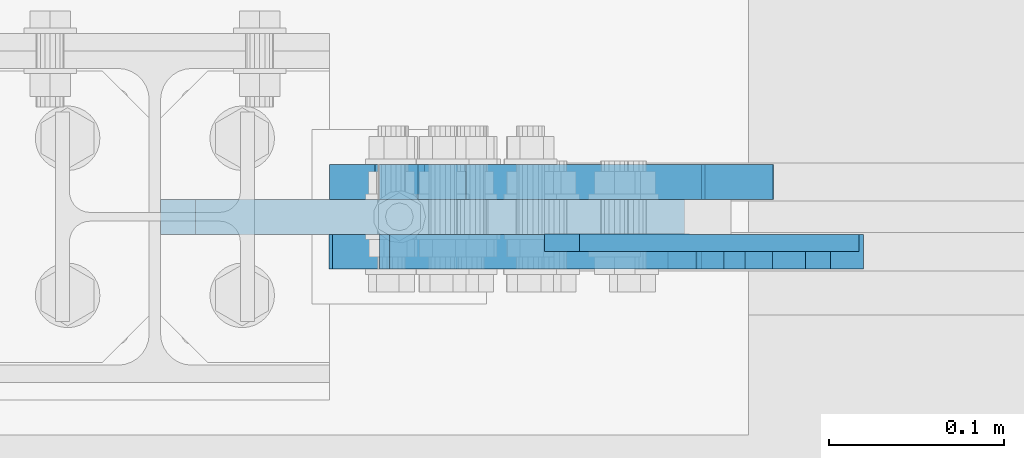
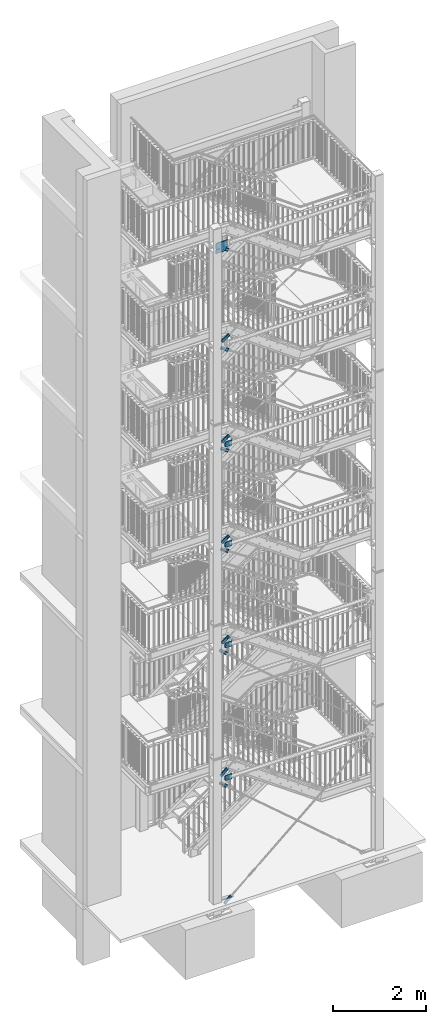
# One storey, part 154 of 831: 17 plates, 46 openings.
"""IFC2X3 building model written with IfcOpenShell, lengths in millimetres."""

from ifc_helpers import new_model, entity, si_unit, converted_unit, point, frame, frame_2d, origin, origin_with_axes, place, context, project, spatial, polyline, circle_curve, line_curve, trimmed, segment, composite_curve, circle, outline, extrude, material, layer, layer_set, element, save


model = new_model("IFC2X3")

# Units and contexts
model_context = context("Model", 3, precision=1e-09, world=origin_with_axes())
ifc_project = project(units=[si_unit("LENGTHUNIT", "METRE", prefix="MILLI"), si_unit("AREAUNIT", "SQUARE_METRE"), si_unit("VOLUMEUNIT", "CUBIC_METRE"), converted_unit("PLANEANGLEUNIT", "DEGREE", entity("IfcPlaneAngleMeasure", 0.01745329), si_unit("PLANEANGLEUNIT", "RADIAN"), dimensions=[0, 0, 0, 0, 0, 0, 0])], contexts=[model_context])

# Site, building, storey
site_placement = place(None, origin_with_axes())
site = spatial("IfcSite", under=ifc_project, at=site_placement, Name="Site", CompositionType="ELEMENT")
building_placement = place(site_placement, origin_with_axes())
building = spatial("IfcBuilding", under=site, at=building_placement, Name="Struktur 1", CompositionType="ELEMENT")
storey_placement = place(building_placement, origin_with_axes())
storey = spatial("IfcBuildingStorey", under=building, at=storey_placement, Name="Default Storey", CompositionType="ELEMENT", Elevation=0.0)

# Plate, openings
ifc_material = material(Name="S235JR")
ifc_layer_1 = layer(ifc_material, 20.0)
ifc_layer_set_1 = layer_set([ifc_layer_1], Name="S235JR")
plate_1_placement = place(None, frame((5159.963402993, 4376.736971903, 17582.999996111), z_axis=(0.0, -1.0, 0.0), x_axis=(-1.0, 0.0, 0.0)))
plate_1 = element("IfcPlate", 1, at=plate_1_placement, inside=storey, material=ifc_layer_set_1, Name="-", ObjectType="-", context=model_context, shape_type="SweptSolid", body=[
    extrude(outline(polyline([(0.0, -110.0), (300.0, -110.0), (300.0, 277.428405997), (80.797896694, 277.428405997), (0.0, 154.0), (0.0, -110.0)])), origin_with_axes(), (0.0, 0.0, 1.0), 20.0),
])
opening_1_placement = place(plate_1_placement, frame((0.0, 0.0, 20.1), z_axis=(0.0, 0.0, -1.0), x_axis=(1.0, 0.0, 0.0)))
element("IfcOpeningElement", 2, at=opening_1_placement, cuts=plate_1, ObjectType="Opening", context=model_context, shape_type="SweptSolid", body=[
    extrude(outline(composite_curve([segment(trimmed(line_curve((320.001, -147.998996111), (-1.0, 0.0), 20.001414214), [point((320.001, -147.998996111))], [point((299.999585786, -147.998996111))], True, "CARTESIAN"), True, "CONTINUOUS"), segment(trimmed(line_curve((299.999585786, -147.998996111), (-0.707106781, -0.707106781), 28.284271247), [point((299.999585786, -147.998996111))], [point((279.999585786, -167.998996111))], True, "CARTESIAN"), True, "CONTINUOUS"), segment(trimmed(line_curve((279.999585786, -167.998996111), (-1.0, 0.0), 77.749585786), [point((279.999585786, -167.998996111))], [point((202.25, -167.998996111))], True, "CARTESIAN"), True, "CONTINUOUS"), segment(trimmed(circle_curve(frame_2d((202.25, -173.999996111), x_axis=(1.0, 0.0)), 6.001), [point((202.25, -167.998996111))], [point((202.250004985, -180.000996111))], True, "CARTESIAN"), True, "CONTINUOUS"), segment(trimmed(line_curve((202.250004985, -180.000996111), (1.0, 0.0), 77.749580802), [point((202.250004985, -180.000996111))], [point((279.999585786, -180.000996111))], True, "CARTESIAN"), True, "CONTINUOUS"), segment(trimmed(line_curve((279.999585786, -180.000996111), (0.707106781, -0.707106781), 28.284271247), [point((279.999585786, -180.000996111))], [point((299.999585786, -200.000996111))], True, "CARTESIAN"), True, "CONTINUOUS"), segment(trimmed(line_curve((299.999585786, -200.000996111), (1.0, 0.0), 20.001414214), [point((299.999585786, -200.000996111))], [point((320.001, -200.000996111))], True, "CARTESIAN"), True, "CONTINUOUS"), segment(trimmed(line_curve((320.001, -200.000996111), (0.0, 1.0), 52.002), [point((320.001, -200.000996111))], [point((320.001, -147.998996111))], True, "CARTESIAN"), True, "CONTINUOUS")], self_intersect=False)), origin(), (0.0, 0.0, 1.0), 20.2),
])
opening_2_placement = place(plate_1_placement, frame((0.0, 0.0, -0.1), z_axis=(0.0, 0.0, 1.0), x_axis=(-1.0, 0.0, 0.0)))
element("IfcOpeningElement", 3, at=opening_2_placement, cuts=plate_1, ObjectType="Opening", context=model_context, shape_type="SweptSolid", body=[
    extrude(outline(polyline([(-357.550566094, -87.534865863), (-279.997343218, -10.002996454), (66.534507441, -10.002996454), (66.534507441, 200.331791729), (-389.783896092, 200.331791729), (-357.550566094, -87.534865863)])), origin(), (0.0, 0.0, 1.0), 20.2),
])
opening_3_placement = place(plate_1_placement, frame((30.999001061, 54.0, -0.5), z_axis=(0.0, 0.0, -1.0), x_axis=(-1.0, 0.0, 0.0)))
element("IfcOpeningElement", 4, at=opening_3_placement, cuts=plate_1, ObjectType="Opening", context=model_context, shape_type="SweptSolid", body=[
    extrude(circle(Radius=9.001, at=frame_2d((-9.001, 0.0), x_axis=(1.0, 0.0))), origin(), (0.0, 0.0, -1.0), 21.0),
])
opening_4_placement = place(plate_1_placement, frame((30.999001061, 114.0, -0.5), z_axis=(0.0, 0.0, -1.0), x_axis=(-1.0, 0.0, 0.0)))
element("IfcOpeningElement", 5, at=opening_4_placement, cuts=plate_1, ObjectType="Opening", context=model_context, shape_type="SweptSolid", body=[
    extrude(circle(Radius=9.001, at=frame_2d((-9.001, 0.0), x_axis=(1.0, 0.0))), origin(), (0.0, 0.0, -1.0), 21.0),
])
opening_5_placement = place(plate_1_placement, frame((95.605125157, 219.668222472, -0.5), z_axis=(0.0, 0.0, -1.0), x_axis=(-1.0, 0.0, 0.0)))
element("IfcOpeningElement", 6, at=opening_5_placement, cuts=plate_1, ObjectType="Opening", context=model_context, shape_type="SweptSolid", body=[
    extrude(circle(Radius=9.001, at=frame_2d((7.535218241, 4.9232598), x_axis=(1.0, 0.0))), origin(), (0.0, 0.0, -1.0), 21.0),
])
opening_6_placement = place(plate_1_placement, frame((145.83433241, 186.850136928, -0.5), z_axis=(0.0, 0.0, -1.0), x_axis=(-1.0, 0.0, 0.0)))
element("IfcOpeningElement", 7, at=opening_6_placement, cuts=plate_1, ObjectType="Opening", context=model_context, shape_type="SweptSolid", body=[
    extrude(circle(Radius=9.001, at=frame_2d((7.535218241, 4.9232598), x_axis=(1.0, 0.0))), origin(), (0.0, 0.0, -1.0), 21.0),
])

plate_2_placement = place(None, frame((5229.229944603, 4356.736971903, 395.19448655), z_axis=(0.0, -1.0, 0.0), x_axis=(-0.652408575, 0.0, 0.757867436)))
plate_2 = element("IfcPlate", 8, at=plate_2_placement, inside=storey, material=ifc_layer_set_1, Name="-", ObjectType="-", context=model_context, shape_type="SweptSolid", body=[
    extrude(outline(polyline([(0.0, 0.0), (29.0, 0.0), (29.0, 210.0), (9.0, 230.0), (-31.0, 230.0), (-51.0, 210.0), (-51.0, 0.0), (-22.0, 0.0), (-22.0, 80.0), (0.0, 80.0), (0.0, 0.0)])), origin_with_axes(), (0.0, 0.0, 1.0), 20.0),
])
opening_7_placement = place(plate_2_placement, frame((-11.0, 170.0, -0.5), z_axis=(0.0, 0.0, 1.0), x_axis=(0.0, -1.0, 0.0)))
element("IfcOpeningElement", 9, at=opening_7_placement, cuts=plate_2, ObjectType="Opening", context=model_context, shape_type="SweptSolid", body=[
    extrude(circle(Radius=9.001, at=frame_2d((30.0, 0.0), x_axis=(1.0, 0.0))), origin(), (0.0, 0.0, 1.0), 21.0),
])
opening_8_placement = place(plate_2_placement, frame((-11.0, 170.0, -0.5), z_axis=(0.0, 0.0, 1.0), x_axis=(0.0, -1.0, 0.0)))
element("IfcOpeningElement", 10, at=opening_8_placement, cuts=plate_2, ObjectType="Opening", context=model_context, shape_type="SweptSolid", body=[
    extrude(circle(Radius=9.001, at=frame_2d((-30.0, 0.0), x_axis=(1.0, 0.0))), origin(), (0.0, 0.0, 1.0), 21.0),
])

plate_3_placement = place(None, frame((5182.473395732, 4356.736971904, 7211.973311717), z_axis=(0.0, -1.0, 0.0), x_axis=(-0.548720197, 0.0, 0.836006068)))
plate_3 = element("IfcPlate", 11, at=plate_3_placement, inside=storey, material=ifc_layer_set_1, Name="-", ObjectType="-", context=model_context, shape_type="SweptSolid", body=[
    extrude(outline(polyline([(0.0, 0.0), (29.0, 0.0), (29.0, 210.0), (9.0, 230.0), (-31.0, 230.0), (-51.0, 210.0), (-51.0, 0.0), (-22.0, 0.0), (-22.0, 80.0), (0.0, 80.0), (0.0, 0.0)])), origin_with_axes(), (0.0, 0.0, 1.0), 20.0),
])
opening_9_placement = place(plate_3_placement, frame((-11.0, 170.0, -0.5), z_axis=(0.0, 0.0, 1.0), x_axis=(0.0, -1.0, 0.0)))
element("IfcOpeningElement", 12, at=opening_9_placement, cuts=plate_3, ObjectType="Opening", context=model_context, shape_type="SweptSolid", body=[
    extrude(circle(Radius=9.001, at=frame_2d((30.0, 0.0), x_axis=(1.0, 0.0))), origin(), (0.0, 0.0, 1.0), 21.0),
])
opening_10_placement = place(plate_3_placement, frame((-11.0, 170.0, -0.5), z_axis=(0.0, 0.0, 1.0), x_axis=(0.0, -1.0, 0.0)))
element("IfcOpeningElement", 13, at=opening_10_placement, cuts=plate_3, ObjectType="Opening", context=model_context, shape_type="SweptSolid", body=[
    extrude(circle(Radius=9.001, at=frame_2d((-30.0, 0.0), x_axis=(1.0, 0.0))), origin(), (0.0, 0.0, 1.0), 21.0),
])

plate_4_placement = place(None, frame((5136.237715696, 4356.736971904, 3768.643811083), z_axis=(0.0, -1.0, 0.0), x_axis=(-0.654679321, 0.0, 0.755906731)))
plate_4 = element("IfcPlate", 14, at=plate_4_placement, inside=storey, material=ifc_layer_set_1, Name="-", ObjectType="-", context=model_context, shape_type="SweptSolid", body=[
    extrude(outline(polyline([(0.0, 0.0), (29.0, 0.0), (29.0, 210.0), (9.0, 230.0), (-31.0, 230.0), (-51.0, 210.0), (-51.0, 0.0), (-22.0, 0.0), (-22.0, 80.0), (0.0, 80.0), (0.0, 0.0)])), origin_with_axes(), (0.0, 0.0, 1.0), 20.0),
])
opening_11_placement = place(plate_4_placement, frame((-11.0, 170.0, -0.5), z_axis=(0.0, 0.0, 1.0), x_axis=(0.0, -1.0, 0.0)))
element("IfcOpeningElement", 15, at=opening_11_placement, cuts=plate_4, ObjectType="Opening", context=model_context, shape_type="SweptSolid", body=[
    extrude(circle(Radius=9.001, at=frame_2d((30.0, 0.0), x_axis=(1.0, 0.0))), origin(), (0.0, 0.0, 1.0), 21.0),
])
opening_12_placement = place(plate_4_placement, frame((-11.0, 170.0, -0.5), z_axis=(0.0, 0.0, 1.0), x_axis=(0.0, -1.0, 0.0)))
element("IfcOpeningElement", 16, at=opening_12_placement, cuts=plate_4, ObjectType="Opening", context=model_context, shape_type="SweptSolid", body=[
    extrude(circle(Radius=9.001, at=frame_2d((-30.0, 0.0), x_axis=(1.0, 0.0))), origin(), (0.0, 0.0, 1.0), 21.0),
])

plate_5_placement = place(None, frame((5138.483538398, 4396.736971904, 3254.92436087), z_axis=(0.0, 1.0, 0.0), x_axis=(-0.652408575, 0.0, -0.757867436)))
plate_5 = element("IfcPlate", 17, at=plate_5_placement, inside=storey, material=ifc_layer_set_1, Name="-", ObjectType="-", context=model_context, shape_type="SweptSolid", body=[
    extrude(outline(polyline([(0.0, 0.0), (29.0, 0.0), (29.0, 210.0), (9.0, 230.0), (-31.0, 230.0), (-51.0, 210.0), (-51.0, 0.0), (-22.0, 0.0), (-22.0, 80.0), (0.0, 80.0), (0.0, 0.0)])), origin_with_axes(), (0.0, 0.0, -1.0), 20.0),
])
opening_13_placement = place(plate_5_placement, frame((-11.0, 149.001, 0.5), z_axis=(0.0, 0.0, 1.0), x_axis=(1.0, 0.0, 0.0)))
element("IfcOpeningElement", 18, at=opening_13_placement, cuts=plate_5, ObjectType="Opening", context=model_context, shape_type="SweptSolid", body=[
    extrude(circle(Radius=9.001, at=frame_2d((0.0, -9.001), x_axis=(1.0, 0.0))), origin(), (0.0, 0.0, -1.0), 21.0),
])
opening_14_placement = place(plate_5_placement, frame((-11.000000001, 209.001, 0.5), z_axis=(0.0, 0.0, 1.0), x_axis=(1.0, 0.0, 0.0)))
element("IfcOpeningElement", 19, at=opening_14_placement, cuts=plate_5, ObjectType="Opening", context=model_context, shape_type="SweptSolid", body=[
    extrude(circle(Radius=9.001, at=frame_2d((0.0, -9.001), x_axis=(1.0, 0.0))), origin(), (0.0, 0.0, -1.0), 21.0),
])

plate_6_placement = place(None, frame((5136.378489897, 4396.736971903, 6728.234258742), z_axis=(0.0, 1.0, 0.0), x_axis=(-0.654679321, 0.0, -0.755906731)))
plate_6 = element("IfcPlate", 20, at=plate_6_placement, inside=storey, material=ifc_layer_set_1, Name="-", ObjectType="-", context=model_context, shape_type="SweptSolid", body=[
    extrude(outline(polyline([(0.0, 0.0), (29.0, 0.0), (29.0, 210.0), (9.0, 230.0), (-31.0, 230.0), (-51.0, 210.0), (-51.0, 0.0), (-22.0, 0.0), (-22.0, 80.0), (0.0, 80.0), (0.0, 0.0)])), origin_with_axes(), (0.0, 0.0, -1.0), 20.0),
])
opening_15_placement = place(plate_6_placement, frame((-11.0, 149.001, 0.5), z_axis=(0.0, 0.0, 1.0), x_axis=(1.0, 0.0, 0.0)))
element("IfcOpeningElement", 21, at=opening_15_placement, cuts=plate_6, ObjectType="Opening", context=model_context, shape_type="SweptSolid", body=[
    extrude(circle(Radius=9.001, at=frame_2d((0.0, -9.001), x_axis=(1.0, 0.0))), origin(), (0.0, 0.0, -1.0), 21.0),
])
opening_16_placement = place(plate_6_placement, frame((-11.0, 209.001, 0.5), z_axis=(0.0, 0.0, 1.0), x_axis=(1.0, 0.0, 0.0)))
element("IfcOpeningElement", 22, at=opening_16_placement, cuts=plate_6, ObjectType="Opening", context=model_context, shape_type="SweptSolid", body=[
    extrude(circle(Radius=9.001, at=frame_2d((0.0, -9.001), x_axis=(1.0, 0.0))), origin(), (0.0, 0.0, -1.0), 21.0),
])

plate_7_placement = place(None, frame((5182.60391541, 4396.736971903, 9389.94099275), z_axis=(0.0, 1.0, 0.0), x_axis=(-0.548720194, 0.0, -0.83600607)))
plate_7 = element("IfcPlate", 23, at=plate_7_placement, inside=storey, material=ifc_layer_set_1, Name="-", ObjectType="-", context=model_context, shape_type="SweptSolid", body=[
    extrude(outline(polyline([(0.0, 0.0), (29.0, 0.0), (29.0, 210.0), (9.0, 230.0), (-31.0, 230.0), (-51.0, 210.0), (-51.0, 0.0), (-22.0, 0.0), (-22.0, 80.0), (0.0, 80.0), (0.0, 0.0)])), origin_with_axes(), (0.0, 0.0, -1.0), 20.0),
])
opening_17_placement = place(plate_7_placement, frame((-11.0, 149.001, 0.5), z_axis=(0.0, 0.0, 1.0), x_axis=(1.0, 0.0, 0.0)))
element("IfcOpeningElement", 24, at=opening_17_placement, cuts=plate_7, ObjectType="Opening", context=model_context, shape_type="SweptSolid", body=[
    extrude(circle(Radius=9.001, at=frame_2d((0.0, -9.001), x_axis=(1.0, 0.0))), origin(), (0.0, 0.0, -1.0), 21.0),
])
opening_18_placement = place(plate_7_placement, frame((-11.0, 209.001, 0.5), z_axis=(0.0, 0.0, 1.0), x_axis=(1.0, 0.0, 0.0)))
element("IfcOpeningElement", 25, at=opening_18_placement, cuts=plate_7, ObjectType="Opening", context=model_context, shape_type="SweptSolid", body=[
    extrude(circle(Radius=9.001, at=frame_2d((0.0, -9.001), x_axis=(1.0, 0.0))), origin(), (0.0, 0.0, -1.0), 21.0),
])

plate_8_placement = place(None, frame((5182.671058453, 4356.736971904, 9843.689085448), z_axis=(0.0, -1.0, 0.0), x_axis=(-0.547991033, 0.0, 0.836484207)))
plate_8 = element("IfcPlate", 26, at=plate_8_placement, inside=storey, material=ifc_layer_set_1, Name="-", ObjectType="-", context=model_context, shape_type="SweptSolid", body=[
    extrude(outline(polyline([(0.0, 0.0), (29.0, 0.0), (29.0, 210.0), (9.0, 230.0), (-31.0, 230.0), (-51.0, 210.0), (-51.0, 0.0), (-22.0, 0.0), (-22.0, 80.0), (0.0, 80.0), (0.0, 0.0)])), origin_with_axes(), (0.0, 0.0, 1.0), 20.0),
])
opening_19_placement = place(plate_8_placement, frame((-11.0, 170.0, -0.5), z_axis=(0.0, 0.0, 1.0), x_axis=(0.0, -1.0, 0.0)))
element("IfcOpeningElement", 27, at=opening_19_placement, cuts=plate_8, ObjectType="Opening", context=model_context, shape_type="SweptSolid", body=[
    extrude(circle(Radius=9.001, at=frame_2d((30.0, 0.0), x_axis=(1.0, 0.0))), origin(), (0.0, 0.0, 1.0), 21.0),
])
opening_20_placement = place(plate_8_placement, frame((-11.0, 170.0, -0.5), z_axis=(0.0, 0.0, 1.0), x_axis=(0.0, -1.0, 0.0)))
element("IfcOpeningElement", 28, at=opening_20_placement, cuts=plate_8, ObjectType="Opening", context=model_context, shape_type="SweptSolid", body=[
    extrude(circle(Radius=9.001, at=frame_2d((-30.0, 0.0), x_axis=(1.0, 0.0))), origin(), (0.0, 0.0, 1.0), 21.0),
])

plate_9_placement = place(None, frame((5182.803007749, 4396.736971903, 12017.227496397), z_axis=(0.0, 1.0, 0.0), x_axis=(-0.547980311, 0.0, -0.836491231)))
plate_9 = element("IfcPlate", 29, at=plate_9_placement, inside=storey, material=ifc_layer_set_1, Name="-", ObjectType="-", context=model_context, shape_type="SweptSolid", body=[
    extrude(outline(polyline([(0.0, 0.0), (29.0, 0.0), (29.0, 210.0), (9.0, 230.0), (-31.0, 230.0), (-51.0, 210.0), (-51.0, 0.0), (-22.0, 0.0), (-22.0, 80.0), (0.0, 80.0), (0.0, 0.0)])), origin_with_axes(), (0.0, 0.0, -1.0), 20.0),
])
opening_21_placement = place(plate_9_placement, frame((-11.0, 149.001, 0.5), z_axis=(0.0, 0.0, 1.0), x_axis=(1.0, 0.0, 0.0)))
element("IfcOpeningElement", 30, at=opening_21_placement, cuts=plate_9, ObjectType="Opening", context=model_context, shape_type="SweptSolid", body=[
    extrude(circle(Radius=9.001, at=frame_2d((0.0, -9.001), x_axis=(1.0, 0.0))), origin(), (0.0, 0.0, -1.0), 21.0),
])
opening_22_placement = place(plate_9_placement, frame((-11.0, 209.001, 0.5), z_axis=(0.0, 0.0, 1.0), x_axis=(1.0, 0.0, 0.0)))
element("IfcOpeningElement", 31, at=opening_22_placement, cuts=plate_9, ObjectType="Opening", context=model_context, shape_type="SweptSolid", body=[
    extrude(circle(Radius=9.001, at=frame_2d((0.0, -9.001), x_axis=(1.0, 0.0))), origin(), (0.0, 0.0, -1.0), 21.0),
])

plate_10_placement = place(None, frame((5182.354864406, 4356.736971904, 12471.143686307), z_axis=(0.0, -1.0, 0.0), x_axis=(-0.549157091, 0.0, 0.835719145)))
plate_10 = element("IfcPlate", 32, at=plate_10_placement, inside=storey, material=ifc_layer_set_1, Name="-", ObjectType="-", context=model_context, shape_type="SweptSolid", body=[
    extrude(outline(polyline([(0.0, 0.0), (29.0, 0.0), (29.0, 210.0), (9.0, 230.0), (-31.0, 230.0), (-51.0, 210.0), (-51.0, 0.0), (-22.0, 0.0), (-22.0, 80.0), (0.0, 80.0), (0.0, 0.0)])), origin_with_axes(), (0.0, 0.0, 1.0), 20.0),
])
opening_23_placement = place(plate_10_placement, frame((-11.0, 170.0, -0.5), z_axis=(0.0, 0.0, 1.0), x_axis=(0.0, -1.0, 0.0)))
element("IfcOpeningElement", 33, at=opening_23_placement, cuts=plate_10, ObjectType="Opening", context=model_context, shape_type="SweptSolid", body=[
    extrude(circle(Radius=9.001, at=frame_2d((30.0, 0.0), x_axis=(1.0, 0.0))), origin(), (0.0, 0.0, 1.0), 21.0),
])
opening_24_placement = place(plate_10_placement, frame((-11.0, 170.0, -0.5), z_axis=(0.0, 0.0, 1.0), x_axis=(0.0, -1.0, 0.0)))
element("IfcOpeningElement", 34, at=opening_24_placement, cuts=plate_10, ObjectType="Opening", context=model_context, shape_type="SweptSolid", body=[
    extrude(circle(Radius=9.001, at=frame_2d((-30.0, 0.0), x_axis=(1.0, 0.0))), origin(), (0.0, 0.0, 1.0), 21.0),
])

plate_11_placement = place(None, frame((5182.485458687, 4396.736971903, 14651.77050571), z_axis=(0.0, 1.0, 0.0), x_axis=(-0.549157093, 0.0, -0.835719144)))
plate_11 = element("IfcPlate", 35, at=plate_11_placement, inside=storey, material=ifc_layer_set_1, Name="-", ObjectType="-", context=model_context, shape_type="SweptSolid", body=[
    extrude(outline(polyline([(0.0, 0.0), (29.0, 0.0), (29.0, 210.0), (9.0, 230.0), (-31.0, 230.0), (-51.0, 210.0), (-51.0, 0.0), (-22.0, 0.0), (-22.0, 80.0), (0.0, 80.0), (0.0, 0.0)])), origin_with_axes(), (0.0, 0.0, -1.0), 20.0),
])
opening_25_placement = place(plate_11_placement, frame((-11.0, 149.001, 0.5), z_axis=(0.0, 0.0, 1.0), x_axis=(1.0, 0.0, 0.0)))
element("IfcOpeningElement", 36, at=opening_25_placement, cuts=plate_11, ObjectType="Opening", context=model_context, shape_type="SweptSolid", body=[
    extrude(circle(Radius=9.001, at=frame_2d((0.0, -9.001), x_axis=(1.0, 0.0))), origin(), (0.0, 0.0, -1.0), 21.0),
])
opening_26_placement = place(plate_11_placement, frame((-11.0, 209.001, 0.5), z_axis=(0.0, 0.0, 1.0), x_axis=(1.0, 0.0, 0.0)))
element("IfcOpeningElement", 37, at=opening_26_placement, cuts=plate_11, ObjectType="Opening", context=model_context, shape_type="SweptSolid", body=[
    extrude(circle(Radius=9.001, at=frame_2d((0.0, -9.001), x_axis=(1.0, 0.0))), origin(), (0.0, 0.0, -1.0), 21.0),
])

plate_12_placement = place(None, frame((5182.948039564, 4356.736971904, 15105.290571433), z_axis=(0.0, -1.0, 0.0), x_axis=(-0.546968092, 0.0, 0.837153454)))
plate_12 = element("IfcPlate", 38, at=plate_12_placement, inside=storey, material=ifc_layer_set_1, Name="-", ObjectType="-", context=model_context, shape_type="SweptSolid", body=[
    extrude(outline(polyline([(0.0, 0.0), (29.0, 0.0), (29.0, 210.0), (9.0, 230.0), (-31.0, 230.0), (-51.0, 210.0), (-51.0, 0.0), (-22.0, 0.0), (-22.0, 80.0), (0.0, 80.0), (0.0, 0.0)])), origin_with_axes(), (0.0, 0.0, 1.0), 20.0),
])
opening_27_placement = place(plate_12_placement, frame((-11.0, 170.0, -0.5), z_axis=(0.0, 0.0, 1.0), x_axis=(0.0, -1.0, 0.0)))
element("IfcOpeningElement", 39, at=opening_27_placement, cuts=plate_12, ObjectType="Opening", context=model_context, shape_type="SweptSolid", body=[
    extrude(circle(Radius=9.001, at=frame_2d((30.0, 0.0), x_axis=(1.0, 0.0))), origin(), (0.0, 0.0, 1.0), 21.0),
])
opening_28_placement = place(plate_12_placement, frame((-11.0, 170.0, -0.5), z_axis=(0.0, 0.0, 1.0), x_axis=(0.0, -1.0, 0.0)))
element("IfcOpeningElement", 40, at=opening_28_placement, cuts=plate_12, ObjectType="Opening", context=model_context, shape_type="SweptSolid", body=[
    extrude(circle(Radius=9.001, at=frame_2d((-30.0, 0.0), x_axis=(1.0, 0.0))), origin(), (0.0, 0.0, 1.0), 21.0),
])

plate_13_placement = place(None, frame((5183.078330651, 4396.736971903, 17272.624292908), z_axis=(0.0, 1.0, 0.0), x_axis=(-0.546968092, 0.0, -0.837153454)))
plate_13 = element("IfcPlate", 41, at=plate_13_placement, inside=storey, material=ifc_layer_set_1, Name="-", ObjectType="-", context=model_context, shape_type="SweptSolid", body=[
    extrude(outline(polyline([(0.0, 0.0), (29.0, 0.0), (29.0, 210.0), (9.0, 230.0), (-31.0, 230.0), (-51.0, 210.0), (-51.0, 0.0), (-22.0, 0.0), (-22.0, 80.0), (0.0, 80.0), (0.0, 0.0)])), origin_with_axes(), (0.0, 0.0, -1.0), 20.0),
])
opening_29_placement = place(plate_13_placement, frame((-11.0, 149.001, 0.5), z_axis=(0.0, 0.0, 1.0), x_axis=(1.0, 0.0, 0.0)))
element("IfcOpeningElement", 42, at=opening_29_placement, cuts=plate_13, ObjectType="Opening", context=model_context, shape_type="SweptSolid", body=[
    extrude(circle(Radius=9.001, at=frame_2d((0.0, -9.001), x_axis=(1.0, 0.0))), origin(), (0.0, 0.0, -1.0), 21.0),
])
opening_30_placement = place(plate_13_placement, frame((-11.0, 209.001, 0.5), z_axis=(0.0, 0.0, 1.0), x_axis=(1.0, 0.0, 0.0)))
element("IfcOpeningElement", 43, at=opening_30_placement, cuts=plate_13, ObjectType="Opening", context=model_context, shape_type="SweptSolid", body=[
    extrude(circle(Radius=9.001, at=frame_2d((0.0, -9.001), x_axis=(1.0, 0.0))), origin(), (0.0, 0.0, -1.0), 21.0),
])

ifc_layer_2 = layer(ifc_material, 10.0)
ifc_layer_set_2 = layer_set([ifc_layer_2], Name="S235JR")
plate_14_placement = place(None, frame((5169.963401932, 4356.736971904, 6984.999996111), z_axis=(0.0, 1.0, 0.0), x_axis=(-1.0, 0.0, 0.0)))
plate_14 = element("IfcPlate", 44, at=plate_14_placement, inside=storey, material=ifc_layer_set_2, Name="-", ObjectType="-", context=model_context, shape_type="SweptSolid", body=[
    extrude(outline(polyline([(-90.0, -70.0), (90.0, -70.0), (90.0, 70.0), (-90.0, 70.0), (-90.0, -70.0)])), origin_with_axes(), (0.0, 0.0, -1.0), 10.0),
])
opening_31_placement = place(plate_14_placement, frame((90.0, -70.0, 0.01), z_axis=(0.0, 0.0, 1.0), x_axis=(0.0, 1.0, 0.0)))
element("IfcOpeningElement", 45, at=opening_31_placement, cuts=plate_14, ObjectType="Opening", context=model_context, shape_type="SweptSolid", body=[
    extrude(outline(polyline([(0.0, 0.0), (20.0, 0.0), (0.0, 20.0), (0.0, 0.0)])), origin(), (0.0, 0.0, -1.0), 10.02),
])
opening_32_placement = place(plate_14_placement, frame((90.0, 70.0, 0.01), z_axis=(0.0, 0.0, 1.0), x_axis=(-1.0, 0.0, 0.0)))
element("IfcOpeningElement", 46, at=opening_32_placement, cuts=plate_14, ObjectType="Opening", context=model_context, shape_type="SweptSolid", body=[
    extrude(outline(polyline([(0.0, 0.0), (20.0, 0.0), (0.0, 20.0), (0.0, 0.0)])), origin(), (0.0, 0.0, -1.0), 10.02),
])
opening_33_placement = place(plate_14_placement, frame((40.999, 30.0, 0.5), z_axis=(0.0, 0.0, 1.0), x_axis=(1.0, 0.0, 0.0)))
element("IfcOpeningElement", 47, at=opening_33_placement, cuts=plate_14, ObjectType="Opening", context=model_context, shape_type="SweptSolid", body=[
    extrude(circle(Radius=9.001, at=frame_2d((9.001, 0.0), x_axis=(1.0, 0.0))), origin(), (0.0, 0.0, -1.0), 11.0),
])
opening_34_placement = place(plate_14_placement, frame((40.999, -30.0, 0.5), z_axis=(0.0, 0.0, 1.0), x_axis=(1.0, 0.0, 0.0)))
element("IfcOpeningElement", 48, at=opening_34_placement, cuts=plate_14, ObjectType="Opening", context=model_context, shape_type="SweptSolid", body=[
    extrude(circle(Radius=9.001, at=frame_2d((9.001, 0.0), x_axis=(1.0, 0.0))), origin(), (0.0, 0.0, -1.0), 11.0),
])

plate_15_placement = place(None, frame((5169.963401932, 4356.736971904, 3511.999996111), z_axis=(0.0, 1.0, 0.0), x_axis=(-1.0, 0.0, 0.0)))
plate_15 = element("IfcPlate", 49, at=plate_15_placement, inside=storey, material=ifc_layer_set_2, Name="-", ObjectType="-", context=model_context, shape_type="SweptSolid", body=[
    extrude(outline(polyline([(-90.0, -70.0), (90.0, -70.0), (90.0, 70.0), (-90.0, 70.0), (-90.0, -70.0)])), origin_with_axes(), (0.0, 0.0, -1.0), 10.0),
])
opening_35_placement = place(plate_15_placement, frame((90.0, -70.0, 0.01), z_axis=(0.0, 0.0, 1.0), x_axis=(0.0, 1.0, 0.0)))
element("IfcOpeningElement", 50, at=opening_35_placement, cuts=plate_15, ObjectType="Opening", context=model_context, shape_type="SweptSolid", body=[
    extrude(outline(polyline([(0.0, 0.0), (20.0, 0.0), (0.0, 20.0), (0.0, 0.0)])), origin(), (0.0, 0.0, -1.0), 10.02),
])
opening_36_placement = place(plate_15_placement, frame((90.0, 70.0, 0.01), z_axis=(0.0, 0.0, 1.0), x_axis=(-1.0, 0.0, 0.0)))
element("IfcOpeningElement", 51, at=opening_36_placement, cuts=plate_15, ObjectType="Opening", context=model_context, shape_type="SweptSolid", body=[
    extrude(outline(polyline([(0.0, 0.0), (20.0, 0.0), (0.0, 20.0), (0.0, 0.0)])), origin(), (0.0, 0.0, -1.0), 10.02),
])
opening_37_placement = place(plate_15_placement, frame((40.999, 30.0, 0.5), z_axis=(0.0, 0.0, 1.0), x_axis=(1.0, 0.0, 0.0)))
element("IfcOpeningElement", 52, at=opening_37_placement, cuts=plate_15, ObjectType="Opening", context=model_context, shape_type="SweptSolid", body=[
    extrude(circle(Radius=9.001, at=frame_2d((9.001, 0.0), x_axis=(1.0, 0.0))), origin(), (0.0, 0.0, -1.0), 11.0),
])
opening_38_placement = place(plate_15_placement, frame((40.999, -30.0, 0.5), z_axis=(0.0, 0.0, 1.0), x_axis=(1.0, 0.0, 0.0)))
element("IfcOpeningElement", 53, at=opening_38_placement, cuts=plate_15, ObjectType="Opening", context=model_context, shape_type="SweptSolid", body=[
    extrude(circle(Radius=9.001, at=frame_2d((9.001, 0.0), x_axis=(1.0, 0.0))), origin(), (0.0, 0.0, -1.0), 11.0),
])

plate_16_placement = place(None, frame((5169.963401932, 4356.736971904, 9616.999996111), z_axis=(0.0, 1.0, 0.0), x_axis=(-1.0, 0.0, 0.0)))
plate_16 = element("IfcPlate", 54, at=plate_16_placement, inside=storey, material=ifc_layer_set_2, Name="-", ObjectType="-", context=model_context, shape_type="SweptSolid", body=[
    extrude(outline(polyline([(-90.0, -70.0), (90.0, -70.0), (90.0, 70.0), (-90.0, 70.0), (-90.0, -70.0)])), origin_with_axes(), (0.0, 0.0, -1.0), 10.0),
])
opening_39_placement = place(plate_16_placement, frame((90.0, -70.0, 0.01), z_axis=(0.0, 0.0, 1.0), x_axis=(0.0, 1.0, 0.0)))
element("IfcOpeningElement", 55, at=opening_39_placement, cuts=plate_16, ObjectType="Opening", context=model_context, shape_type="SweptSolid", body=[
    extrude(outline(polyline([(0.0, 0.0), (20.0, 0.0), (0.0, 20.0), (0.0, 0.0)])), origin(), (0.0, 0.0, -1.0), 10.02),
])
opening_40_placement = place(plate_16_placement, frame((90.0, 70.0, 0.01), z_axis=(0.0, 0.0, 1.0), x_axis=(-1.0, 0.0, 0.0)))
element("IfcOpeningElement", 56, at=opening_40_placement, cuts=plate_16, ObjectType="Opening", context=model_context, shape_type="SweptSolid", body=[
    extrude(outline(polyline([(0.0, 0.0), (20.0, 0.0), (0.0, 20.0), (0.0, 0.0)])), origin(), (0.0, 0.0, -1.0), 10.02),
])
opening_41_placement = place(plate_16_placement, frame((40.999, 30.0, 0.5), z_axis=(0.0, 0.0, 1.0), x_axis=(1.0, 0.0, 0.0)))
element("IfcOpeningElement", 57, at=opening_41_placement, cuts=plate_16, ObjectType="Opening", context=model_context, shape_type="SweptSolid", body=[
    extrude(circle(Radius=9.001, at=frame_2d((9.001, 0.0), x_axis=(1.0, 0.0))), origin(), (0.0, 0.0, -1.0), 11.0),
])
opening_42_placement = place(plate_16_placement, frame((40.999, -30.0, 0.5), z_axis=(0.0, 0.0, 1.0), x_axis=(1.0, 0.0, 0.0)))
element("IfcOpeningElement", 58, at=opening_42_placement, cuts=plate_16, ObjectType="Opening", context=model_context, shape_type="SweptSolid", body=[
    extrude(circle(Radius=9.001, at=frame_2d((9.001, 0.0), x_axis=(1.0, 0.0))), origin(), (0.0, 0.0, -1.0), 11.0),
])

plate_17_placement = place(None, frame((5169.963401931, 4356.736971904, 12243.999996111), z_axis=(0.0, 1.0, 0.0), x_axis=(-1.0, 0.0, 0.0)))
plate_17 = element("IfcPlate", 59, at=plate_17_placement, inside=storey, material=ifc_layer_set_2, Name="-", ObjectType="-", context=model_context, shape_type="SweptSolid", body=[
    extrude(outline(polyline([(-90.0, -70.0), (90.0, -70.0), (90.0, 70.0), (-90.0, 70.0), (-90.0, -70.0)])), origin_with_axes(), (0.0, 0.0, -1.0), 10.0),
])
opening_43_placement = place(plate_17_placement, frame((90.0, -70.0, 0.01), z_axis=(0.0, 0.0, 1.0), x_axis=(0.0, 1.0, 0.0)))
element("IfcOpeningElement", 60, at=opening_43_placement, cuts=plate_17, ObjectType="Opening", context=model_context, shape_type="SweptSolid", body=[
    extrude(outline(polyline([(0.0, 0.0), (20.0, 0.0), (0.0, 20.0), (0.0, 0.0)])), origin(), (0.0, 0.0, -1.0), 10.02),
])
opening_44_placement = place(plate_17_placement, frame((90.0, 70.0, 0.01), z_axis=(0.0, 0.0, 1.0), x_axis=(-1.0, 0.0, 0.0)))
element("IfcOpeningElement", 61, at=opening_44_placement, cuts=plate_17, ObjectType="Opening", context=model_context, shape_type="SweptSolid", body=[
    extrude(outline(polyline([(0.0, 0.0), (20.0, 0.0), (0.0, 20.0), (0.0, 0.0)])), origin(), (0.0, 0.0, -1.0), 10.02),
])
opening_45_placement = place(plate_17_placement, frame((40.999, 30.0, 0.5), z_axis=(0.0, 0.0, 1.0), x_axis=(1.0, 0.0, 0.0)))
element("IfcOpeningElement", 62, at=opening_45_placement, cuts=plate_17, ObjectType="Opening", context=model_context, shape_type="SweptSolid", body=[
    extrude(circle(Radius=9.001, at=frame_2d((9.001, 0.0), x_axis=(1.0, 0.0))), origin(), (0.0, 0.0, -1.0), 11.0),
])
opening_46_placement = place(plate_17_placement, frame((40.999, -30.0, 0.5), z_axis=(0.0, 0.0, 1.0), x_axis=(1.0, 0.0, 0.0)))
element("IfcOpeningElement", 63, at=opening_46_placement, cuts=plate_17, ObjectType="Opening", context=model_context, shape_type="SweptSolid", body=[
    extrude(circle(Radius=9.001, at=frame_2d((9.001, 0.0), x_axis=(1.0, 0.0))), origin(), (0.0, 0.0, -1.0), 11.0),
])

save(model, "model.ifc")
